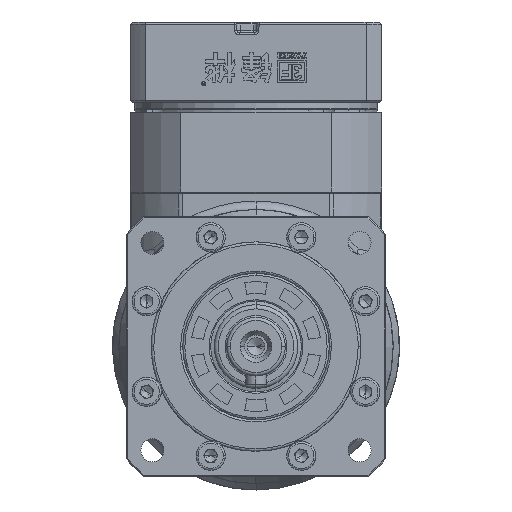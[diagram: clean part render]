
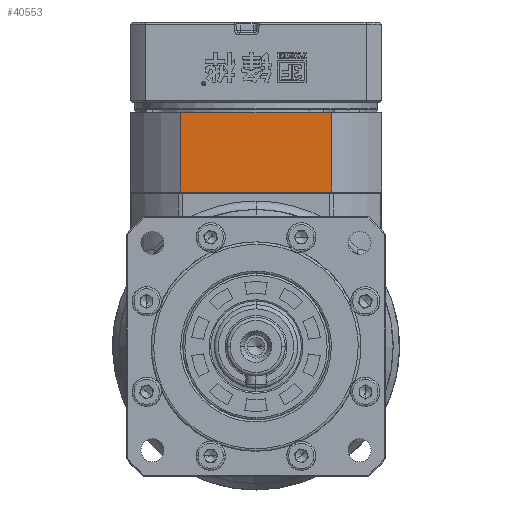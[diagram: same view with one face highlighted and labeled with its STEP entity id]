
A CAD part, left-side view. The second image highlights one B-rep face of the part: STEP entity #40553.
In plain terms, the highlighted planar face has unit normal (-1, 0, 0) as drawn and (0, 0, 1) by its records, which use the part's own axes.
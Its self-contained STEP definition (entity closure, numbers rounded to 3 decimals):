
#4886 = DIRECTION ( 'NONE',  ( 0., 0., 1. ) ) ;
#6493 = CARTESIAN_POINT ( 'NONE',  ( 19.4, -18.028, 30. ) ) ;
#8033 = ORIENTED_EDGE ( 'NONE', *, *, #71813, .T. ) ;
#9552 = CARTESIAN_POINT ( 'NONE',  ( 0.4, 18.028, 30. ) ) ;
#11944 = VERTEX_POINT ( 'NONE', #6493 ) ;
#14288 = DIRECTION ( 'NONE',  ( 0., 1., 0. ) ) ;
#15994 = VECTOR ( 'NONE', #38156, 1000. ) ;
#16769 = PLANE ( 'NONE',  #70091 ) ;
#17270 = VERTEX_POINT ( 'NONE', #9552 ) ;
#18447 = ORIENTED_EDGE ( 'NONE', *, *, #67457, .T. ) ;
#18856 = CARTESIAN_POINT ( 'NONE',  ( 36., 18.028, 30. ) ) ;
#20121 = DIRECTION ( 'NONE',  ( 1., 0., 0. ) ) ;
#22538 = EDGE_CURVE ( 'NONE', #11944, #73584, #77374, .T. ) ;
#25022 = DIRECTION ( 'NONE',  ( -1., 0., 0. ) ) ;
#30993 = VECTOR ( 'NONE', #25022, 1000. ) ;
#32245 = LINE ( 'NONE', #55959, #15994 ) ;
#32435 = CARTESIAN_POINT ( 'NONE',  ( 19.4, 30., 30. ) ) ;
#38156 = DIRECTION ( 'NONE',  ( 0., -1., 0. ) ) ;
#40553 = ADVANCED_FACE ( 'NONE', ( #46546 ), #16769, .T. ) ;
#41209 = CARTESIAN_POINT ( 'NONE',  ( 36., 30., 30. ) ) ;
#43733 = EDGE_CURVE ( 'NONE', #73584, #17270, #62844, .T. ) ;
#46546 = FACE_OUTER_BOUND ( 'NONE', #65211, .T. ) ;
#47237 = DIRECTION ( 'NONE',  ( 0., -1., 0. ) ) ;
#48096 = CARTESIAN_POINT ( 'NONE',  ( 36., -18.028, 30. ) ) ;
#51624 = CARTESIAN_POINT ( 'NONE',  ( 19.4, 18.028, 30. ) ) ;
#52465 = VERTEX_POINT ( 'NONE', #60436 ) ;
#53550 = ORIENTED_EDGE ( 'NONE', *, *, #43733, .T. ) ;
#54618 = ORIENTED_EDGE ( 'NONE', *, *, #22538, .T. ) ;
#55459 = VECTOR ( 'NONE', #20121, 1000. ) ;
#55959 = CARTESIAN_POINT ( 'NONE',  ( 0.4, 34.6, 30. ) ) ;
#57315 = LINE ( 'NONE', #48096, #55459 ) ;
#60436 = CARTESIAN_POINT ( 'NONE',  ( 0.4, -18.028, 30. ) ) ;
#61442 = VECTOR ( 'NONE', #14288, 1000. ) ;
#62844 = LINE ( 'NONE', #18856, #30993 ) ;
#65211 = EDGE_LOOP ( 'NONE', ( #53550, #8033, #18447, #54618 ) ) ;
#67457 = EDGE_CURVE ( 'NONE', #52465, #11944, #57315, .T. ) ;
#70091 = AXIS2_PLACEMENT_3D ( 'NONE', #41209, #4886, #47237 ) ;
#71813 = EDGE_CURVE ( 'NONE', #17270, #52465, #32245, .T. ) ;
#73584 = VERTEX_POINT ( 'NONE', #51624 ) ;
#77374 = LINE ( 'NONE', #32435, #61442 ) ;
